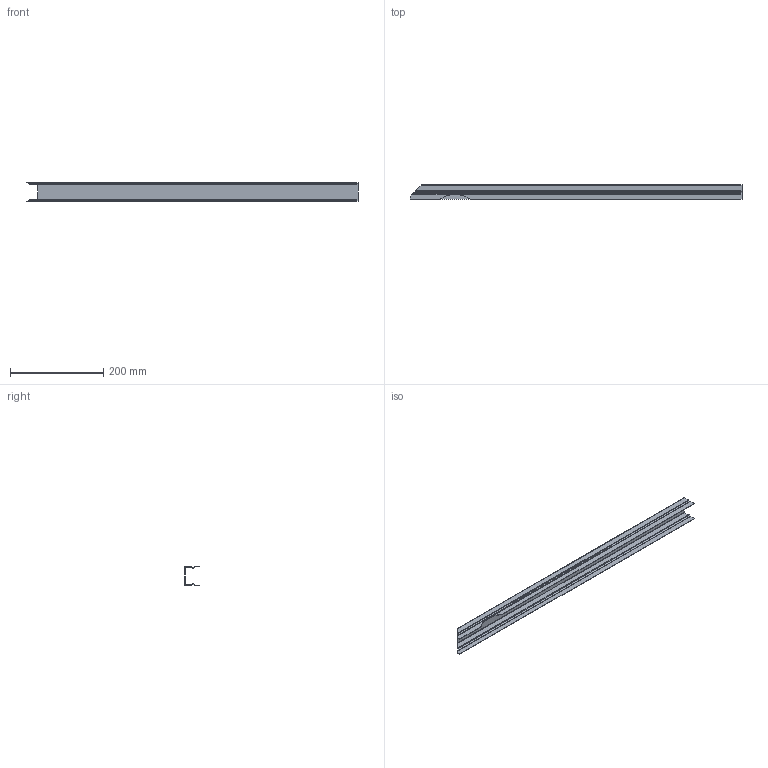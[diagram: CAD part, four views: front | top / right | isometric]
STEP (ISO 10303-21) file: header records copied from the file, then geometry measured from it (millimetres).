
FILE_DESCRIPTION (( 'STEP AP203' ), '1' );
FILE_NAME ('70-0271-00 REV 2, CABLE COVER, 24in FLEX, BLACK.STEP', '2017-01-25T17:42:19', ( '' ), ( '' ), 'SwSTEP 2.0', 'SolidWorks 2012', '' );
FILE_SCHEMA (( 'CONFIG_CONTROL_DESIGN' ));
Length unit declared in the file: inch
Products named in the file (1): 70-0271-00 REV 2, CABLE COVER, 24in FLEX, BLACK
Bounding box: 711.2 x 31.77 x 40.47 mm (x, y, z)
Volume: 66348.5 mm3; surface area: 146634.1 mm2
Topology: 1 solids, 1 shells, 80 faces, 166 edges, 88 vertices
Faces by surface type: plane 51, cylinder 18, bspline 11
Entity records: 2319 total; most frequent: CARTESIAN_POINT 678, ORIENTED_EDGE 332, DIRECTION 304, EDGE_CURVE 166, LINE 124, VECTOR 124, AXIS2_PLACEMENT_3D 90, VERTEX_POINT 88
